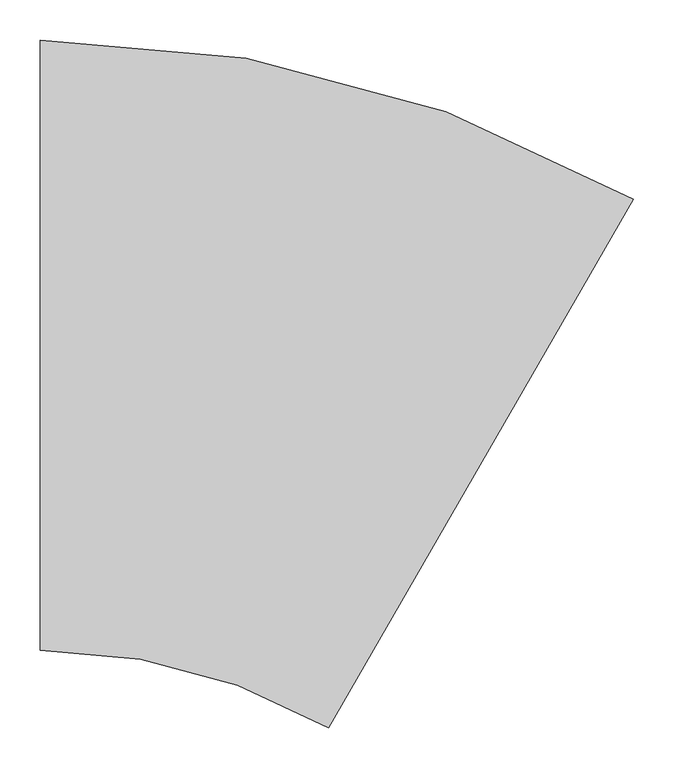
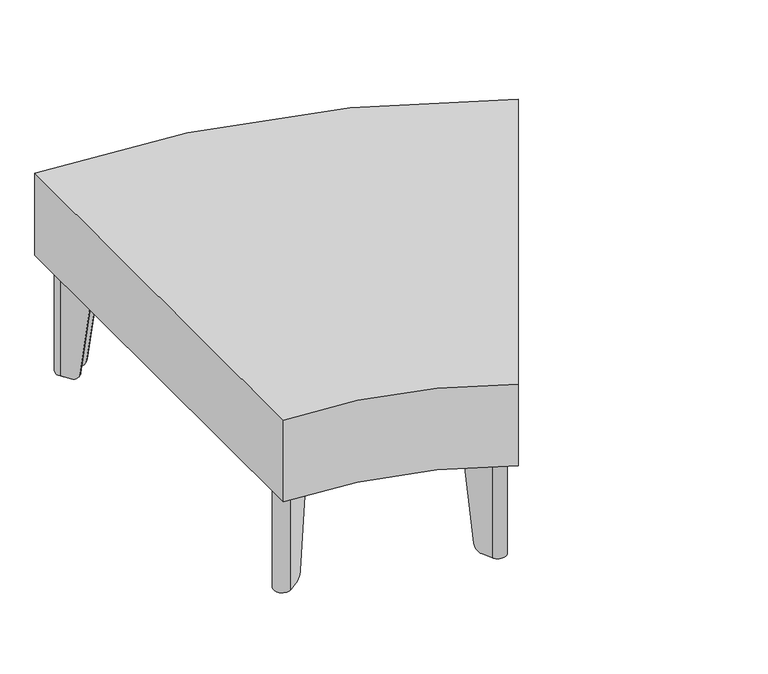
"""IFC4 building model written with IfcOpenShell, lengths in millimetres: furniture geometry, Stance_HC-Flora-Table_Curve_30 : FATR30WC-P."""

from ifc_helpers import new_model, si_unit, point, frame, frame_2d, origin, origin_with_axes, place, context, project, spatial, polyline, circle_curve, ellipse_curve, trimmed, segment, composite_curve, outline, extrude, source, transform, mapped, element, save
from ifc_brep_helpers import plane_surface, cylinder_surface, revolved_surface, advanced_brep


def furniture_db350dd1(model_context):
    return source(origin(), model_context, "Body", "SolidModel", [
        extrude(outline(composite_curve([segment(polyline([(0.0, -757.2502172), (0.0, 0.0)]), True, "CONTINUOUS"), segment(trimmed(circle_curve(frame_2d((0.0, -1473.9188659)), 1473.9188659), [point((0.0, 0.0))], [point((736.959433, -197.4676849))], False, "CARTESIAN"), True, "CONTINUOUS"), segment(polyline([(736.959433, -197.4676849), (358.3343243, -853.2656101)]), True, "CONTINUOUS"), segment(trimmed(circle_curve(frame_2d((0.0, -1473.9188659)), 716.6686487), [point((358.3343243, -853.2656101))], [point((0.0, -757.2502172))], True, "CARTESIAN"), True, "CONTINUOUS")], self_intersect=False)), frame((0.0, 0.0, 196.85), z_axis=(0.0, 0.0, 1.0), x_axis=(1.0, 0.0, 0.0)), (0.0, 0.0, 1.0), 152.399991),
        extrude(outline(composite_curve([segment(polyline([(668.2817274, -213.9273848), (684.4622222, -212.5117452)]), True, "CONTINUOUS"), segment(trimmed(circle_curve(frame_2d((685.4727964, -224.0624182)), 11.5947965), [point((684.4622222, -212.5117452))], [point((690.37295, -234.5708815))], False, "CARTESIAN"), True, "CONTINUOUS"), segment(polyline([(690.37295, -234.5708815), (675.6524106, -241.435149), (668.2817274, -213.9273848)]), True, "CONTINUOUS")], self_intersect=False)), frame((0.0, 0.0, 3.175), z_axis=(0.0, 0.0, 1.0), x_axis=(1.0, 0.0, 0.0)), (0.0, 0.0, 1.0), 3.3792927),
        advanced_brep(
        [(641.2881832, -261.0059331, 193.6877233), (691.7313564, -237.4840072, 193.6877233), (684.1820738, -209.3097011, 193.6877233), (628.7360447, -214.1607021, 193.6877233), (629.0161931, -217.3627462, 193.6877233), (684.4622222, -212.5117452, 193.6877233), (690.37295, -234.5708815, 193.6877233), (639.9297768, -258.0928073, 193.6877233), (641.2881832, -261.0059331, 189.1419595), (690.37295, -234.5708815, 3.1876992), (674.3812509, -242.0278977, 3.1876992), (659.8805523, -248.7896523, 17.1280233), (684.4622222, -212.5117452, 3.1876992), (650.9456458, -215.4441273, 17.1280233), (666.8844965, -214.0496293, 3.1876992), (628.7360447, -214.1607021, 189.1419334), (684.1820738, -209.3097011, 3.1876992), (666.0397473, -210.8969824, 3.1876992), (650.1008966, -212.2914804, 17.1280233), (691.7313564, -237.4840072, 3.1876992), (660.7253015, -251.9422992, 17.1280233), (675.2260001, -245.1805446, 3.1876992)],
        [
            (0, 1),
            (1, 2, circle_curve(frame((685.4727964, -224.0624182, 193.6877233), z_axis=(0.0, 0.0, 1.0), x_axis=(-0.866025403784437, 0.5000000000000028, 0.0)), 14.8090724)),
            (2, 3),
            (3, 4),
            (4, 5),
            (5, 6, circle_curve(frame((685.4727964, -224.0624182, 193.6877233), z_axis=(0.0, 0.0, -1.0), x_axis=(-0.866025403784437, 0.5000000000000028, 0.0)), 11.5947965)),
            (6, 7),
            (7, 0),
            (7, 8),
            (8, 0),
            (6, 9),
            (9, 10),
            (10, 11, ellipse_curve(frame((674.3812509, -242.0278977, 19.0626992), z_axis=(-0.4226166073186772, 0.9063085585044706, 0.0), x_axis=(-0.9063085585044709, -0.42261660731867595, 0.0)), 16.1198923, 15.875)),
            (11, 7),
            (5, 12),
            (12, 9, circle_curve(frame((685.4727964, -224.0624182, 3.1876992), z_axis=(0.0, 0.0, -1.0), x_axis=(-0.866025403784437, 0.5000000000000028, 0.0)), 11.5947965)),
            (4, 13),
            (13, 14, ellipse_curve(frame((666.8844965, -214.0496293, 19.0626992), z_axis=(0.08715756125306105, -0.9961945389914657, 0.0), x_axis=(0.9961945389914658, 0.08715756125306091, 0.0)), 16.1198923, 15.875)),
            (14, 12),
            (3, 15),
            (15, 4),
            (2, 16),
            (16, 17),
            (17, 18, ellipse_curve(frame((666.0397473, -210.8969824, 19.0626992), z_axis=(-0.08715756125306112, 0.9961945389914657, 0.0), x_axis=(0.9961945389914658, 0.08715756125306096, 0.0)), 16.1198923, 15.875)),
            (18, 15),
            (1, 19),
            (19, 16, circle_curve(frame((685.4727964, -224.0624182, 3.1876992), z_axis=(0.0, 0.0, 1.0), x_axis=(-0.866025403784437, 0.5000000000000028, 0.0)), 14.8090724)),
            (8, 20),
            (20, 21, ellipse_curve(frame((675.2260001, -245.1805446, 19.0626992), z_axis=(0.4226166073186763, -0.9063085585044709, 0.0), x_axis=(-0.9063085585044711, -0.4226166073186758, 0.0)), 16.1198923, 15.875)),
            (21, 19),
            (18, 13),
            (11, 20),
            (21, 10),
            (14, 17),
        ],
        [
            plane_surface(frame((639.9297768, -258.0928073, 193.6877233), z_axis=(0.0, 0.0, 1.0), x_axis=(-0.4226166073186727, 0.9063085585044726, 0.0))),
            plane_surface(frame((641.2881832, -261.0059331, 193.6877233), z_axis=(-0.9063085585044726, -0.4226166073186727, 0.0), x_axis=(0.0, 0.0, -1.0))),
            plane_surface(frame((639.9297768, -258.0928073, 193.6877233), z_axis=(-0.42261660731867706, 0.9063085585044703, 0.0), x_axis=(0.0, 0.0, -1.0))),
            revolved_surface(polyline([(675.4314080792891, -218.26501994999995, 3.1876992), (675.4314080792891, -218.26501994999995, 193.6877233)]), (685.4727964, -224.0624182, 0.0), (0.0, 0.0, -1.0)),
            plane_surface(frame((684.4622222, -212.5117452, 193.6877233), z_axis=(0.08715756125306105, -0.9961945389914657, 0.0), x_axis=(0.0, 0.0, -1.0))),
            plane_surface(frame((629.0161931, -217.3627462, 193.6877233), z_axis=(-0.9961945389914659, -0.08715756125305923, 0.0), x_axis=(0.0, 0.0, -1.0))),
            plane_surface(frame((628.7360447, -214.1607021, 193.6877233), z_axis=(-0.08715756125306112, 0.9961945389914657, 0.0), x_axis=(0.0, 0.0, -1.0))),
            cylinder_surface(frame((685.4727964, -224.0624182, 0.0), z_axis=(0.0, 0.0, 1.0), x_axis=(-0.866025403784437, 0.5000000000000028, 0.0)), 14.8090724),
            plane_surface(frame((691.7313564, -237.4840072, 193.6877233), z_axis=(0.4226166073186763, -0.9063085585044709, 0.0), x_axis=(0.0, 0.0, -1.0))),
            plane_surface(frame((647.9472752, -204.2540559, 17.1280233), z_axis=(-0.9587259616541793, -0.25688984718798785, -0.12186934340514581), x_axis=(0.25881904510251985, -0.9659258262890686, 0.0))),
            plane_surface(frame((692.3299262, -192.3617604, 3.1876992), z_axis=(0.0, 0.0, -1.0), x_axis=(0.25881904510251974, -0.9659258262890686, 0.0))),
            cylinder_surface(frame((678.0956313, -255.8901541, 19.0626992), z_axis=(0.25881904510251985, -0.9659258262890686, 0.0), x_axis=(-0.9659258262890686, -0.25881904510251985, 0.0)), 15.875),
        ],
        [
            (0, [[1, 2, 3, 4, 5, 6, 7, 8]]),
            (1, [[9, 10, -8]]),
            (2, [[11, 12, 13, 14, -7]]),
            (3, [[15, 16, -11, -6]]),
            (4, [[17, 18, 19, -15, -5]]),
            (5, [[20, 21, -4]]),
            (6, [[22, 23, 24, 25, -20, -3]]),
            (7, [[26, 27, -22, -2]]),
            (8, [[-10, 28, 29, 30, -26, -1]]),
            (9, [[-17, -21, -25, 31]]),
            (9, [[-28, -9, -14, 32]]),
            (10, [[-23, -27, -30, 33, -12, -16, -19, 34]]),
            (11, [[-13, -33, -29, -32]]),
            (11, [[-24, -34, -18, -31]]),
        ],
    ),
        extrude(outline(composite_curve([segment(trimmed(circle_curve(frame_2d((682.6993851, -224.799419)), 11.1125), [point((692.3230924, -230.355669))], [point((673.0756778, -219.243169))], False, "CARTESIAN"), True, "CONTINUOUS"), segment(trimmed(circle_curve(frame_2d((682.6993851, -224.799419)), 11.1125), [point((673.0756778, -219.243169))], [point((692.3230924, -230.355669))], False, "CARTESIAN"), True, "CONTINUOUS")], self_intersect=False)), origin_with_axes(), (0.0, 0.0, 1.0), 3.175),
        extrude(outline(composite_curve([segment(trimmed(circle_curve(frame_2d((687.274732, -223.5795904)), 15.8749964), [point((694.2338725, -209.3112382))], [point((700.4357007, -232.4567754))], False, "CARTESIAN"), True, "CONTINUOUS"), segment(polyline([(700.4357007, -232.4567754), (644.3454475, -315.6139999), (603.5690814, -326.5399904), (543.9047337, -261.9954717), (563.3033058, -176.2660902), (604.0796724, -165.3400957), (694.2338725, -209.3112382)]), True, "CONTINUOUS")], self_intersect=False)), frame((0.0, 0.0, 193.6877233), z_axis=(0.0, 0.0, 1.0), x_axis=(1.0, 0.0, 0.0)), (0.0, 0.0, 1.0), 4.7751809),
        extrude(outline(composite_curve([segment(polyline([(335.8750984, -789.672555), (363.3828626, -782.3018718), (364.7985022, -798.4823666)]), True, "CONTINUOUS"), segment(trimmed(circle_curve(frame_2d((353.2478293, -799.4929408)), 11.5947965), [point((364.7985022, -798.4823666))], [point((342.739366, -804.3930943))], False, "CARTESIAN"), True, "CONTINUOUS"), segment(polyline([(342.739366, -804.3930943), (335.8750984, -789.672555)]), True, "CONTINUOUS")], self_intersect=False)), frame((0.0, 0.0, 3.175), z_axis=(0.0, 0.0, 1.0), x_axis=(1.0, 0.0, 0.0)), (0.0, 0.0, 1.0), 3.3792927),
        advanced_brep(
        [(363.1495451, -742.7561858, 193.6877233), (359.947501, -743.0363342, 193.6877233), (364.7985022, -798.4823666, 193.6877233), (342.739366, -804.3930943, 193.6877233), (319.2174415, -753.9499241, 193.6877233), (316.3043157, -755.3083305, 193.6877233), (339.8262402, -805.7515007, 193.6877233), (368.0005464, -798.2022181, 193.6877233), (363.1495451, -742.7561858, 189.1419595), (361.8661201, -764.9657902, 17.1280233), (363.2606182, -780.9046408, 3.1876992), (364.7985022, -798.4823666, 3.1876992), (342.739366, -804.3930943, 3.1876992), (335.2823498, -788.4013953, 3.1876992), (328.5205952, -773.9006966, 17.1280233), (316.3043157, -755.3083305, 189.1419334), (325.3679483, -774.7454458, 17.1280233), (332.1297028, -789.2461445, 3.1876992), (339.8262402, -805.7515007, 3.1876992), (368.0005464, -798.2022181, 3.1876992), (366.4132651, -780.0598916, 3.1876992), (365.018767, -764.121041, 17.1280233)],
        [
            (0, 1),
            (1, 2),
            (2, 3, circle_curve(frame((353.2478293, -799.4929408, 193.6877233), z_axis=(0.0, 0.0, -1.0), x_axis=(-0.8660254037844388, 0.49999999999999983, 0.0)), 11.5947965)),
            (3, 4),
            (4, 5),
            (5, 6),
            (6, 7, circle_curve(frame((353.2478293, -799.4929408, 193.6877233), z_axis=(0.0, 0.0, 1.0), x_axis=(-0.8660254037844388, 0.49999999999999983, 0.0)), 14.8090724)),
            (7, 0),
            (0, 8),
            (8, 1),
            (1, 9),
            (9, 10, ellipse_curve(frame((363.2606182, -780.9046408, 19.0626992), z_axis=(-0.9961945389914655, -0.08715756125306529, 0.0), x_axis=(-0.08715756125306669, 0.9961945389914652, 0.0)), 16.1198923, 15.875)),
            (10, 11),
            (11, 2),
            (11, 12, circle_curve(frame((353.2478293, -799.4929408, 3.1876992), z_axis=(0.0, 0.0, -1.0), x_axis=(-0.8660254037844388, 0.49999999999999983, 0.0)), 11.5947965)),
            (12, 3),
            (12, 13),
            (13, 14, ellipse_curve(frame((335.2823498, -788.4013953, 19.0626992), z_axis=(0.9063085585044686, 0.422616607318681, 0.0), x_axis=(0.4226166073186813, -0.9063085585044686, 0.0)), 16.1198923, 15.875)),
            (14, 4),
            (4, 15),
            (15, 5),
            (15, 16),
            (16, 17, ellipse_curve(frame((332.1297028, -789.2461445, 19.0626992), z_axis=(-0.9063085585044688, -0.422616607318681, 0.0), x_axis=(0.42261660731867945, -0.9063085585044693, 0.0)), 16.1198923, 15.875)),
            (17, 18),
            (18, 6),
            (18, 19, circle_curve(frame((353.2478293, -799.4929408, 3.1876992), z_axis=(0.0, 0.0, 1.0), x_axis=(-0.8660254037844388, 0.49999999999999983, 0.0)), 14.8090724)),
            (19, 7),
            (19, 20),
            (20, 21, ellipse_curve(frame((366.4132651, -780.0598916, 19.0626992), z_axis=(0.9961945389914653, 0.08715756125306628, 0.0), x_axis=(-0.08715756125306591, 0.9961945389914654, 0.0)), 16.1198923, 15.875)),
            (21, 8),
            (14, 16),
            (21, 9),
            (17, 13),
            (10, 20),
        ],
        [
            plane_surface(frame((359.947501, -743.0363342, 193.6877233), z_axis=(0.0, 0.0, 1.0000000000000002), x_axis=(-0.996194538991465, -0.08715756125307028, 0.0))),
            plane_surface(frame((363.1495451, -742.7561858, 193.6877233), z_axis=(-0.08715756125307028, 0.996194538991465, 0.0), x_axis=(0.0, 0.0, -1.0))),
            plane_surface(frame((359.947501, -743.0363342, 193.6877233), z_axis=(-0.9961945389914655, -0.08715756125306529, 0.0), x_axis=(0.0, 0.0, -1.0))),
            revolved_surface(polyline([(343.2064409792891, -793.69554255, 3.1876992), (343.2064409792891, -793.69554255, 193.6877233)]), (353.2478293, -799.4929408, 0.0), (0.0, 0.0, -1.0)),
            plane_surface(frame((342.739366, -804.3930943, 193.6877233), z_axis=(0.9063085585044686, 0.422616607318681, 0.0), x_axis=(0.0, 0.0, -1.0))),
            plane_surface(frame((319.2174415, -753.9499241, 193.6877233), z_axis=(-0.42261660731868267, 0.9063085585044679, 0.0), x_axis=(0.0, 0.0, -1.0))),
            plane_surface(frame((316.3043157, -755.3083305, 193.6877233), z_axis=(-0.9063085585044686, -0.4226166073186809, 0.0), x_axis=(0.0, 0.0, -1.0))),
            cylinder_surface(frame((353.2478293, -799.4929408, 0.0), z_axis=(0.0, 0.0, 1.0), x_axis=(-0.8660254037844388, 0.49999999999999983, 0.0)), 14.8090724),
            plane_surface(frame((368.0005464, -798.2022181, 193.6877233), z_axis=(0.9961945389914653, 0.08715756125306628, 0.0), x_axis=(0.0, 0.0, -1.0))),
            plane_surface(frame((317.3305237, -776.8990672, 17.1280233), z_axis=(-0.25688984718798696, 0.9587259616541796, -0.12186934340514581), x_axis=(0.9659258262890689, 0.2588190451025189, 0.0))),
            plane_surface(frame((329.2228192, -821.2817182, 3.1876992), z_axis=(0.0, 0.0, -1.0000000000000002), x_axis=(0.9659258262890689, 0.25881904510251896, 0.0))),
            cylinder_surface(frame((377.1228746, -777.1902604, 19.0626992), z_axis=(0.9659258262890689, 0.2588190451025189, 0.0), x_axis=(-0.2588190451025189, 0.9659258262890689, 0.0)), 15.875),
        ],
        [
            (0, [[1, 2, 3, 4, 5, 6, 7, 8]]),
            (1, [[-1, 9, 10]]),
            (2, [[-2, 11, 12, 13, 14]]),
            (3, [[-3, -14, 15, 16]]),
            (4, [[-4, -16, 17, 18, 19]]),
            (5, [[-5, 20, 21]]),
            (6, [[-6, -21, 22, 23, 24, 25]]),
            (7, [[-7, -25, 26, 27]]),
            (8, [[-8, -27, 28, 29, 30, -9]]),
            (9, [[31, -22, -20, -19]]),
            (9, [[32, -11, -10, -30]]),
            (10, [[33, -17, -15, -13, 34, -28, -26, -24]]),
            (11, [[-31, -18, -33, -23]]),
            (11, [[-32, -29, -34, -12]]),
        ],
    ),
        extrude(outline(composite_curve([segment(trimmed(circle_curve(frame_2d((352.4993851, -796.7225957)), 11.1125), [point((362.1230924, -802.2788457))], [point((342.8756778, -791.1663457))], False, "CARTESIAN"), True, "CONTINUOUS"), segment(trimmed(circle_curve(frame_2d((352.4993851, -796.7225957)), 11.1125), [point((342.8756778, -791.1663457))], [point((362.1230924, -802.2788457))], False, "CARTESIAN"), True, "CONTINUOUS")], self_intersect=False)), origin_with_axes(), (0.0, 0.0, 1.0), 3.175),
        extrude(outline(composite_curve([segment(polyline([(344.8534708, -814.4558452), (261.6962442, -758.3655889), (250.7702497, -717.5892223), (315.3147859, -657.9248753), (401.0441526, -677.3234568), (411.9701504, -718.099821), (367.999008, -808.2540174)]), True, "CONTINUOUS"), segment(trimmed(circle_curve(frame_2d((353.730656, -801.2948767)), 15.8749964), [point((367.999008, -808.2540174))], [point((344.8534708, -814.4558452))], False, "CARTESIAN"), True, "CONTINUOUS")], self_intersect=False)), frame((0.0, 0.0, 193.6877233), z_axis=(0.0, 0.0, 1.0), x_axis=(1.0, 0.0, 0.0)), (0.0, 0.0, 1.0), 4.7751809),
        extrude(outline(composite_curve([segment(polyline([(43.3220749, -713.406629), (30.0171752, -722.7228563)]), True, "CONTINUOUS"), segment(trimmed(circle_curve(frame_2d((23.3666558, -713.2249671)), 11.5947965), [point((30.0171752, -722.7228563))], [point((13.8687667, -706.5744477))], False, "CARTESIAN"), True, "CONTINUOUS"), segment(polyline([(13.8687667, -706.5744477), (23.184994, -693.269548), (43.3220749, -713.406629)]), True, "CONTINUOUS")], self_intersect=False)), frame((0.0, 0.0, 3.175), z_axis=(0.0, 0.0, 1.0), x_axis=(1.0, 0.0, 0.0)), (0.0, 0.0, 1.0), 3.3792927),
        advanced_brep(
        [(43.1598958, -659.1386381, 193.6877233), (11.2357893, -704.73081, 193.6877233), (31.8608129, -725.3558336, 193.6877233), (77.4529822, -693.431729, 193.6877233), (75.6093444, -690.7987516, 193.6877233), (30.0171752, -722.7228563, 193.6877233), (13.8687667, -706.5744477, 193.6877233), (45.7928732, -660.9822758, 193.6877233), (43.1598958, -659.1386381, 189.1419595), (13.8687667, -706.5744477, 3.1876992), (23.9894762, -692.1206327, 3.1876992), (33.1665723, -679.0144322, 17.1280233), (30.0171752, -722.7228563, 3.1876992), (57.5771908, -703.4250506, 17.1280233), (44.4709902, -712.6021467, 3.1876992), (77.4529822, -693.431729, 189.1419334), (31.8608129, -725.3558336, 3.1876992), (46.7788879, -714.9100444, 3.1876992), (59.8850885, -705.7329483, 17.1280233), (11.2357893, -704.73081, 3.1876992), (30.8586746, -676.7065344, 17.1280233), (21.6815785, -689.812735, 3.1876992)],
        [
            (0, 1),
            (1, 2, circle_curve(frame((23.3666558, -713.2249671, 193.6877233), z_axis=(0.0, 0.0, 1.0), x_axis=(1.0, 0.0, 0.0)), 14.8090724)),
            (2, 3),
            (3, 4),
            (4, 5),
            (5, 6, circle_curve(frame((23.3666558, -713.2249671, 193.6877233), z_axis=(0.0, 0.0, -1.0), x_axis=(1.0, 0.0, 0.0)), 11.5947965)),
            (6, 7),
            (7, 0),
            (7, 8),
            (8, 0),
            (6, 9),
            (9, 10),
            (10, 11, ellipse_curve(frame((23.9894762, -692.1206327, 19.0626992), z_axis=(0.8191509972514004, -0.5735779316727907, 0.0), x_axis=(0.5735779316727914, 0.8191509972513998, 0.0)), 16.1198923, 15.875)),
            (11, 7),
            (5, 12),
            (12, 9, circle_curve(frame((23.3666558, -713.2249671, 3.1876992), z_axis=(0.0, 0.0, -1.0), x_axis=(1.0, 0.0, 0.0)), 11.5947965)),
            (4, 13),
            (13, 14, ellipse_curve(frame((44.4709902, -712.6021467, 19.0626992), z_axis=(-0.5735779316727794, 0.8191509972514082, 0.0), x_axis=(-0.8191509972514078, -0.5735779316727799, 0.0)), 16.1198923, 15.875)),
            (14, 12),
            (3, 15),
            (15, 4),
            (2, 16),
            (16, 17),
            (17, 18, ellipse_curve(frame((46.7788879, -714.9100444, 19.0626992), z_axis=(0.5735779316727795, -0.8191509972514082, 0.0), x_axis=(-0.8191509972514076, -0.5735779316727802, 0.0)), 16.1198923, 15.875)),
            (18, 15),
            (1, 19),
            (19, 16, circle_curve(frame((23.3666558, -713.2249671, 3.1876992), z_axis=(0.0, 0.0, 1.0), x_axis=(1.0, 0.0, 0.0)), 14.8090724)),
            (8, 20),
            (20, 21, ellipse_curve(frame((21.6815785, -689.812735, 19.0626992), z_axis=(-0.8191509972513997, 0.5735779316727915, 0.0), x_axis=(0.573577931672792, 0.8191509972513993, 0.0)), 16.1198923, 15.875)),
            (21, 19),
            (18, 13),
            (11, 20),
            (21, 10),
            (14, 17),
        ],
        [
            plane_surface(frame((45.7928732, -660.9822758, 193.6877233), z_axis=(0.0, 0.0, 0.9999999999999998), x_axis=(0.8191509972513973, -0.5735779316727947, 0.0))),
            plane_surface(frame((43.1598958, -659.1386381, 193.6877233), z_axis=(0.5735779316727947, 0.8191509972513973, 0.0), x_axis=(0.0, 0.0, -1.0))),
            plane_surface(frame((45.7928732, -660.9822758, 193.6877233), z_axis=(0.8191509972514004, -0.5735779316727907, 0.0), x_axis=(0.0, 0.0, -1.0))),
            revolved_surface(polyline([(34.9614523, -713.2249671, 3.1876992), (34.9614523, -713.2249671, 193.6877233)]), (23.3666558, -713.2249671, 0.0), (0.0, 0.0, -1.0)),
            plane_surface(frame((30.0171752, -722.7228563, 193.6877233), z_axis=(-0.5735779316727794, 0.8191509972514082, 0.0), x_axis=(0.0, 0.0, -1.0))),
            plane_surface(frame((75.6093444, -690.7987516, 193.6877233), z_axis=(0.8191509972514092, 0.5735779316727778, 0.0), x_axis=(0.0, 0.0, -1.0))),
            plane_surface(frame((77.4529822, -693.431729, 193.6877233), z_axis=(0.5735779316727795, -0.8191509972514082, 0.0), x_axis=(0.0, 0.0, -1.0))),
            cylinder_surface(frame((23.3666558, -713.2249671, 0.0), z_axis=(0.0, 0.0, 1.0), x_axis=(1.0, 0.0, 0.0)), 14.8090724),
            plane_surface(frame((11.2357893, -704.73081, 193.6877233), z_axis=(-0.8191509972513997, 0.5735779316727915, 0.0), x_axis=(0.0, 0.0, -1.0))),
            plane_surface(frame((65.7688916, -711.6167515, 17.1280233), z_axis=(0.7018361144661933, 0.7018361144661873, -0.12186934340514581), x_axis=(-0.7071067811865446, 0.7071067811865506, 0.0))),
            plane_surface(frame((33.2785361, -744.1071069, 3.1876992), z_axis=(0.0, 0.0, -1.0), x_axis=(-0.7071067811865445, 0.7071067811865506, 0.0))),
            cylinder_surface(frame((13.8416002, -681.9727567, 19.0626992), z_axis=(-0.7071067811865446, 0.7071067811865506, 0.0), x_axis=(0.7071067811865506, 0.7071067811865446, 0.0)), 15.875),
        ],
        [
            (0, [[1, 2, 3, 4, 5, 6, 7, 8]]),
            (1, [[9, 10, -8]]),
            (2, [[11, 12, 13, 14, -7]]),
            (3, [[15, 16, -11, -6]]),
            (4, [[17, 18, 19, -15, -5]]),
            (5, [[20, 21, -4]]),
            (6, [[22, 23, 24, 25, -20, -3]]),
            (7, [[26, 27, -22, -2]]),
            (8, [[-10, 28, 29, 30, -26, -1]]),
            (9, [[-17, -21, -25, 31]]),
            (9, [[-28, -9, -14, 32]]),
            (10, [[-23, -27, -30, 33, -12, -16, -19, 34]]),
            (11, [[-13, -33, -29, -32]]),
            (11, [[-24, -34, -18, -31]]),
        ],
    ),
        extrude(outline(composite_curve([segment(trimmed(circle_curve(frame_2d((25.4, -711.2)), 11.1125), [point((14.2875, -711.2))], [point((36.5125, -711.2))], False, "CARTESIAN"), True, "CONTINUOUS"), segment(trimmed(circle_curve(frame_2d((25.4, -711.2)), 11.1125), [point((36.5125, -711.2))], [point((14.2875, -711.2))], False, "CARTESIAN"), True, "CONTINUOUS")], self_intersect=False)), origin_with_axes(), (0.0, 0.0, 1.0), 3.175),
        extrude(outline(composite_curve([segment(trimmed(circle_curve(frame_2d((22.0475477, -714.5440761)), 15.8749964), [point((23.1549313, -730.3804017))], [point((6.211222, -713.4366927))], False, "CARTESIAN"), True, "CONTINUOUS"), segment(polyline([(6.211222, -713.4366927), (13.2081938, -613.3752971), (43.0585676, -583.5249287), (127.0016677, -609.5899477), (153.0667022, -693.5330561), (123.2163301, -723.3834282), (23.1549313, -730.3804017)]), True, "CONTINUOUS")], self_intersect=False)), frame((0.0, 0.0, 193.6877233), z_axis=(0.0, 0.0, 1.0), x_axis=(1.0, 0.0, 0.0)), (0.0, 0.0, 1.0), 4.7751809),
        extrude(outline(composite_curve([segment(polyline([(43.3220749, -48.593371), (23.184994, -68.730452), (13.8687667, -55.4255523)]), True, "CONTINUOUS"), segment(trimmed(circle_curve(frame_2d((23.3666558, -48.7750329)), 11.5947965), [point((13.8687667, -55.4255523))], [point((30.0171752, -39.2771437))], False, "CARTESIAN"), True, "CONTINUOUS"), segment(polyline([(30.0171752, -39.2771437), (43.3220749, -48.593371)]), True, "CONTINUOUS")], self_intersect=False)), frame((0.0, 0.0, 3.175), z_axis=(0.0, 0.0, 1.0), x_axis=(1.0, 0.0, 0.0)), (0.0, 0.0, 1.0), 3.3792927),
        advanced_brep(
        [(43.1598958, -102.8613619, 193.6877233), (45.7928732, -101.0177242, 193.6877233), (13.8687667, -55.4255523, 193.6877233), (30.0171752, -39.2771437, 193.6877233), (75.6093444, -71.2012484, 193.6877233), (77.4529822, -68.568271, 193.6877233), (31.8608129, -36.6441664, 193.6877233), (11.2357893, -57.26919, 193.6877233), (43.1598958, -102.8613619, 189.1419595), (33.1665723, -82.9855678, 17.1280233), (23.9894762, -69.8793673, 3.1876992), (13.8687667, -55.4255523, 3.1876992), (30.0171752, -39.2771437, 3.1876992), (44.4709902, -49.3978533, 3.1876992), (57.5771908, -58.5749494, 17.1280233), (77.4529822, -68.568271, 189.1419334), (59.8850885, -56.2670517, 17.1280233), (46.7788879, -47.0899556, 3.1876992), (31.8608129, -36.6441664, 3.1876992), (11.2357893, -57.26919, 3.1876992), (21.6815785, -72.187265, 3.1876992), (30.8586746, -85.2934656, 17.1280233)],
        [
            (0, 1),
            (1, 2),
            (2, 3, circle_curve(frame((23.3666558, -48.7750329, 193.6877233), z_axis=(0.0, 0.0, -1.0), x_axis=(1.0, 0.0, 0.0)), 11.5947965)),
            (3, 4),
            (4, 5),
            (5, 6),
            (6, 7, circle_curve(frame((23.3666558, -48.7750329, 193.6877233), z_axis=(0.0, 0.0, 1.0), x_axis=(1.0, 0.0, 0.0)), 14.8090724)),
            (7, 0),
            (0, 8),
            (8, 1),
            (1, 9),
            (9, 10, ellipse_curve(frame((23.9894762, -69.8793673, 19.0626992), z_axis=(0.8191509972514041, 0.5735779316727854, 0.0), x_axis=(0.5735779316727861, -0.8191509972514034, 0.0)), 16.1198923, 15.875)),
            (10, 11),
            (11, 2),
            (11, 12, circle_curve(frame((23.3666558, -48.7750329, 3.1876992), z_axis=(0.0, 0.0, -1.0), x_axis=(1.0, 0.0, 0.0)), 11.5947965)),
            (12, 3),
            (12, 13),
            (13, 14, ellipse_curve(frame((44.4709902, -49.3978533, 19.0626992), z_axis=(-0.5735779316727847, -0.8191509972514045, 0.0), x_axis=(-0.8191509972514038, 0.5735779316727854, 0.0)), 16.1198923, 15.875)),
            (14, 4),
            (4, 15),
            (15, 5),
            (15, 16),
            (16, 17, ellipse_curve(frame((46.7788879, -47.0899556, 19.0626992), z_axis=(0.5735779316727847, 0.8191509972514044, 0.0), x_axis=(-0.8191509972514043, 0.573577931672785, 0.0)), 16.1198923, 15.875)),
            (17, 18),
            (18, 6),
            (18, 19, circle_curve(frame((23.3666558, -48.7750329, 3.1876992), z_axis=(0.0, 0.0, 1.0), x_axis=(1.0, 0.0, 0.0)), 14.8090724)),
            (19, 7),
            (19, 20),
            (20, 21, ellipse_curve(frame((21.6815785, -72.187265, 19.0626992), z_axis=(-0.8191509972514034, -0.5735779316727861, 0.0), x_axis=(0.5735779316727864, -0.8191509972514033, 0.0)), 16.1198923, 15.875)),
            (21, 8),
            (14, 16),
            (21, 9),
            (17, 13),
            (10, 20),
        ],
        [
            plane_surface(frame((45.7928732, -101.0177242, 193.6877233), z_axis=(0.0, 0.0, 1.0000000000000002), x_axis=(0.8191509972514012, 0.5735779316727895, 0.0))),
            plane_surface(frame((43.1598958, -102.8613619, 193.6877233), z_axis=(0.5735779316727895, -0.8191509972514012, 0.0), x_axis=(0.0, 0.0, -1.0))),
            plane_surface(frame((45.7928732, -101.0177242, 193.6877233), z_axis=(0.8191509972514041, 0.5735779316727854, 0.0), x_axis=(0.0, 0.0, -1.0))),
            revolved_surface(polyline([(34.9614523, -48.7750329, 3.1876992), (34.9614523, -48.7750329, 193.6877233)]), (23.3666558, -48.7750329, 0.0), (0.0, 0.0, -1.0)),
            plane_surface(frame((30.0171752, -39.2771437, 193.6877233), z_axis=(-0.5735779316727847, -0.8191509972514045, 0.0), x_axis=(0.0, 0.0, -1.0))),
            plane_surface(frame((75.6093444, -71.2012484, 193.6877233), z_axis=(0.8191509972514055, -0.5735779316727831, 0.0), x_axis=(0.0, 0.0, -1.0))),
            plane_surface(frame((77.4529822, -68.568271, 193.6877233), z_axis=(0.5735779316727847, 0.8191509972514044, 0.0), x_axis=(0.0, 0.0, -1.0))),
            cylinder_surface(frame((23.3666558, -48.7750329, 0.0), z_axis=(0.0, 0.0, 1.0), x_axis=(1.0, 0.0, 0.0)), 14.8090724),
            plane_surface(frame((11.2357893, -57.26919, 193.6877233), z_axis=(-0.8191509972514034, -0.5735779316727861, 0.0), x_axis=(0.0, 0.0, -1.0))),
            plane_surface(frame((65.7688916, -50.3832485, 17.1280233), z_axis=(0.7018361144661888, -0.7018361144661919, -0.12186934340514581), x_axis=(-0.7071067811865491, -0.707106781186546, 0.0))),
            plane_surface(frame((33.2785361, -17.8928931, 3.1876992), z_axis=(0.0, 0.0, -1.0), x_axis=(-0.707106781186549, -0.707106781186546, 0.0))),
            cylinder_surface(frame((13.8416002, -80.0272433, 19.0626992), z_axis=(-0.7071067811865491, -0.707106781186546, 0.0), x_axis=(0.707106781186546, -0.7071067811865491, 0.0)), 15.875),
        ],
        [
            (0, [[1, 2, 3, 4, 5, 6, 7, 8]]),
            (1, [[-1, 9, 10]]),
            (2, [[-2, 11, 12, 13, 14]]),
            (3, [[-3, -14, 15, 16]]),
            (4, [[-4, -16, 17, 18, 19]]),
            (5, [[-5, 20, 21]]),
            (6, [[-6, -21, 22, 23, 24, 25]]),
            (7, [[-7, -25, 26, 27]]),
            (8, [[-8, -27, 28, 29, 30, -9]]),
            (9, [[31, -22, -20, -19]]),
            (9, [[32, -11, -10, -30]]),
            (10, [[33, -17, -15, -13, 34, -28, -26, -24]]),
            (11, [[-31, -18, -33, -23]]),
            (11, [[-32, -29, -34, -12]]),
        ],
    ),
        extrude(outline(composite_curve([segment(trimmed(circle_curve(frame_2d((25.4, -50.8)), 11.1125), [point((14.2875, -50.8))], [point((36.5125, -50.8))], False, "CARTESIAN"), True, "CONTINUOUS"), segment(trimmed(circle_curve(frame_2d((25.4, -50.8)), 11.1125), [point((36.5125, -50.8))], [point((14.2875, -50.8))], False, "CARTESIAN"), True, "CONTINUOUS")], self_intersect=False)), origin_with_axes(), (0.0, 0.0, 1.0), 3.175),
        extrude(outline(composite_curve([segment(polyline([(23.1549313, -31.6195983), (123.2163301, -38.6165718), (153.0667022, -68.4669439), (127.0016677, -152.4100523), (43.0585676, -178.4750713), (13.2081938, -148.6247029), (6.211222, -48.5633073)]), True, "CONTINUOUS"), segment(trimmed(circle_curve(frame_2d((22.0475477, -47.4559239)), 15.8749964), [point((6.211222, -48.5633073))], [point((23.1549313, -31.6195983))], False, "CARTESIAN"), True, "CONTINUOUS")], self_intersect=False)), frame((0.0, 0.0, 193.6877233), z_axis=(0.0, 0.0, 1.0), x_axis=(1.0, 0.0, 0.0)), (0.0, 0.0, 1.0), 4.7751809),
    ])


if __name__ == "__main__":
    model = new_model("IFC4")
    model_context = context("Model", 3, world=origin())
    ifc_project = project(units=[si_unit("LENGTHUNIT", "METRE", prefix="MILLI")], contexts=[model_context])
    site = spatial("IfcSite", under=ifc_project)
    building = spatial("IfcBuilding", under=site)
    placement = place(None, origin())
    furniture_shape = furniture_db350dd1(model_context)
    element("IfcFurniture", 1, ObjectType="Stance_HC-Flora-Table_Curve_30 : FATR30WC-P", at=placement, inside=building, context=model_context, shape_type="MappedRepresentation", body=[
        mapped(furniture_shape, transform((0.0, 0.0, 0.0), x_axis=(1.0, 0.0, 0.0), y_axis=(0.0, 1.0, 0.0), z_axis=(0.0, 0.0, 1.0))),
    ])
    save(model, "model.ifc")
